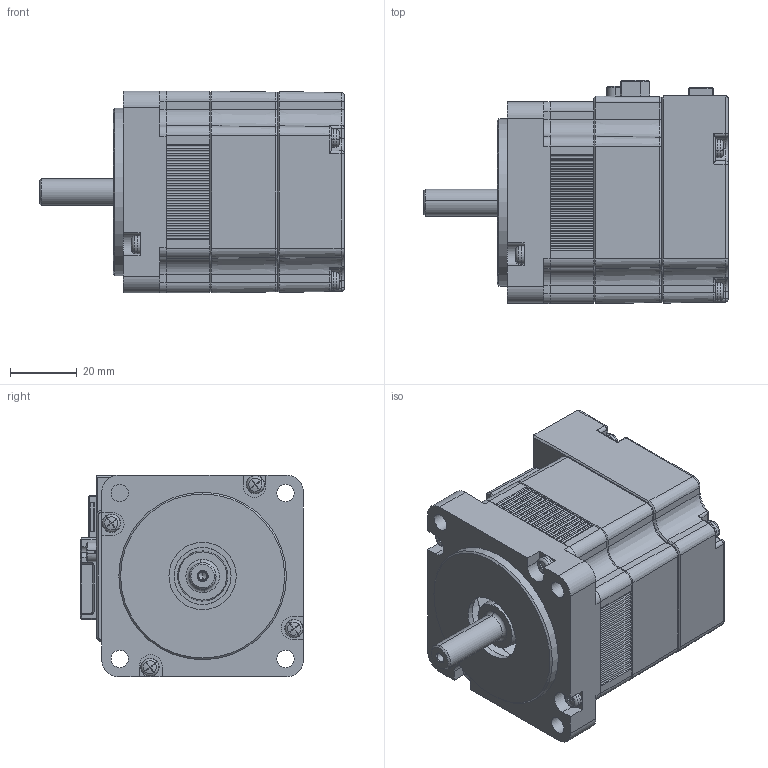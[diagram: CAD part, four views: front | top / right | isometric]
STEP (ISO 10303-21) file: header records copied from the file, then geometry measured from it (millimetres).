
FILE_DESCRIPTION (( 'STEP AP203' ), '1' );
FILE_NAME ('60-100W_NB(¿Ü°ü¿ë).STEP', '2022-09-07T04:58:28', ( '' ), ( '' ), 'SwSTEP 2.0', 'SolidWorks 2020', '' );
FILE_SCHEMA (( 'CONFIG_CONTROL_DESIGN' ));
Length unit declared in the file: millimetre
Products named in the file (9): __60-100W FRAME.STEP; __60-100W SHAFT.STEP; m3x10_____.STEP; 60-100W_NB(諼婦辨); POWER RECEPTACLE.STEP; 60-200W 具胶墨客 海绢傅 函版 敲罚瘤; __60 BRACKET(NON BRAKE)___________ ______.STEP; ENCODER Receptacle.STEP; __60 ENCODER COVER___________ ______.STEP
Assembly tree (15 placements, depth 2):
  60-100W_NB(諼婦辨)
    __60-100W FRAME.STEP
    ENCODER Receptacle.STEP
    POWER RECEPTACLE.STEP
    __60-100W SHAFT.STEP
    m3x10_____.STEP  x8
    __60 BRACKET(NON BRAKE)___________ ______.STEP
    __60 ENCODER COVER___________ ______.STEP
    60-200W 具胶墨客 海绢傅 函版 敲罚瘤
Bounding box: 91 x 66.65 x 60.3 mm (x, y, z)
Volume: 91123.4 mm3; surface area: 58208.7 mm2
Topology: 15 solids, 21 shells, 2089 faces, 5373 edges, 3388 vertices
Faces by surface type: plane 1099, cylinder 540, bspline 195, cone 162, torus 65, sphere 28
Full cylindrical faces by diameter (mm): 3.5 x4, 20.103 x1, 37 x1, 40.103 x1, 50 x1, 56.703 x1
Entity records: 62939 total; most frequent: CARTESIAN_POINT 17617, ORIENTED_EDGE 9392, DIRECTION 9007, EDGE_CURVE 4696, AXIS2_PLACEMENT_3D 3028, VERTEX_POINT 2970, LINE 2951, VECTOR 2951
